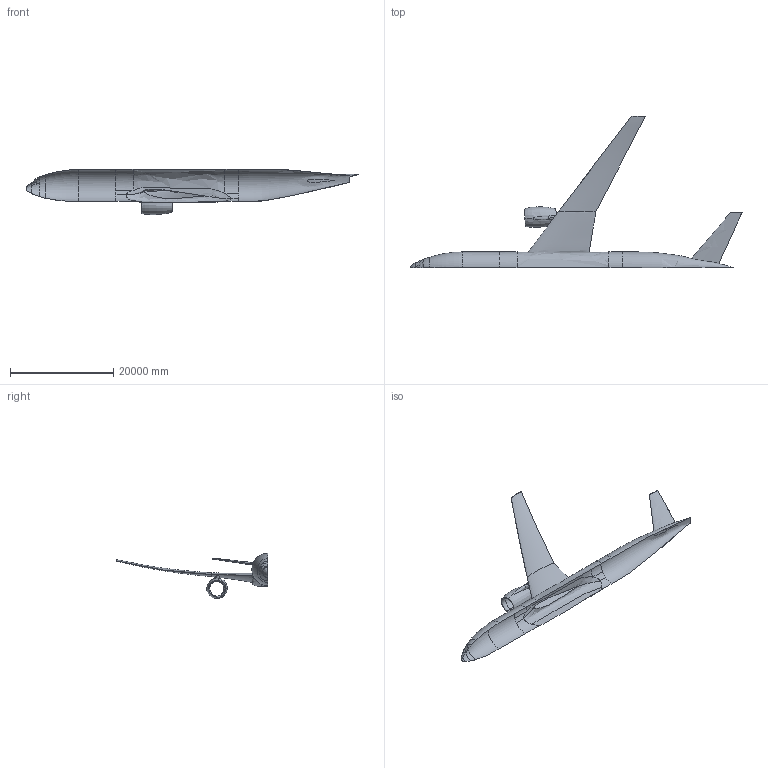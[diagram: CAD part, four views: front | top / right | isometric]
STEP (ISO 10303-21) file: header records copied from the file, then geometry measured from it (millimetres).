
FILE_DESCRIPTION((''),'2;1');
FILE_NAME('','2016-02-01T20:54:50',(''),(''),'','CADfix','');
FILE_SCHEMA(('AUTOMOTIVE_DESIGN { 1 0 10303 214 3 1 1 1 }'));
Bounding box: 64362.38 x 29449.1 x 8763.97 mm (x, y, z)
Surface area: 1105645074.4 mm2 (no closed solid volume)
Topology: 0 solids, 3 shells, 61 faces, 159 edges, 98 vertices
Faces by surface type: bspline 61
Entity records: 304209 total; most frequent: CARTESIAN_POINT 302927, ORIENTED_EDGE 288, STYLED_ITEM 244, EDGE_CURVE 158, B_SPLINE_CURVE_WITH_KNOTS 128, VERTEX_POINT 98, EDGE_LOOP 61, FACE_OUTER_BOUND 61
